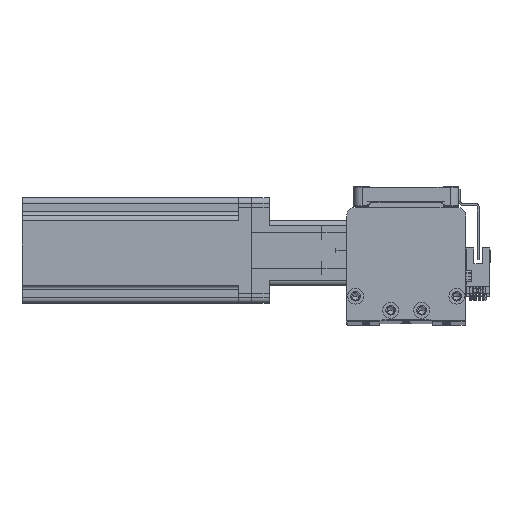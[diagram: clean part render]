
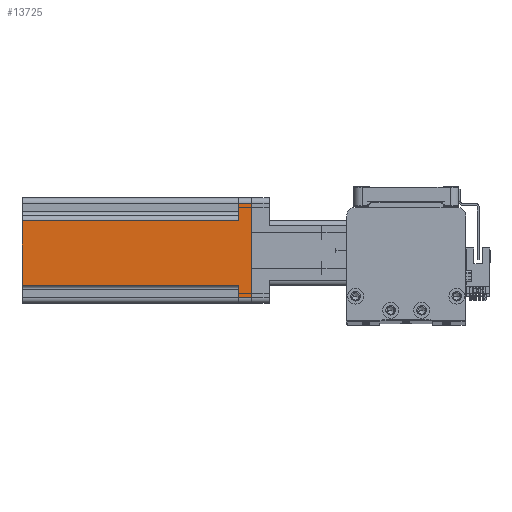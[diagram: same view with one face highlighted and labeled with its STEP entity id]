
A CAD part, top view. The second image highlights one B-rep face of the part: STEP entity #13725.
In plain terms, the highlighted planar face has unit normal (0, 0, 1) as drawn and (-1, 0, 0) by its records, which use the part's own axes.
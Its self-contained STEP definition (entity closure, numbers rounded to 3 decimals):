
#925 = LINE ( 'NONE', #33001, #17358 ) ;
#1280 = EDGE_CURVE ( 'NONE', #19563, #40643, #19574, .T. ) ;
#1428 = EDGE_CURVE ( 'NONE', #7830, #40643, #5397, .T. ) ;
#1460 = CARTESIAN_POINT ( 'NONE',  ( -30., -17., 7.5 ) ) ;
#2454 = CARTESIAN_POINT ( 'NONE',  ( -30., 20., 7.5 ) ) ;
#2562 = FACE_OUTER_BOUND ( 'NONE', #9778, .T. ) ;
#3394 = LINE ( 'NONE', #8610, #13320 ) ;
#3512 = ORIENTED_EDGE ( 'NONE', *, *, #42534, .T. ) ;
#4227 = VECTOR ( 'NONE', #40944, 1000. ) ;
#4643 = EDGE_CURVE ( 'NONE', #39130, #36479, #32904, .T. ) ;
#5397 = LINE ( 'NONE', #22093, #4227 ) ;
#5901 = AXIS2_PLACEMENT_3D ( 'NONE', #37994, #15363, #41752 ) ;
#7431 = CARTESIAN_POINT ( 'NONE',  ( -30., -30., 130.7 ) ) ;
#7509 = ORIENTED_EDGE ( 'NONE', *, *, #32579, .F. ) ;
#7830 = VERTEX_POINT ( 'NONE', #1460 ) ;
#7959 = EDGE_CURVE ( 'NONE', #35687, #39130, #17404, .T. ) ;
#8610 = CARTESIAN_POINT ( 'NONE',  ( -30., 20., 7.5 ) ) ;
#9467 = DIRECTION ( 'NONE',  ( 0., 1., 0. ) ) ;
#9778 = EDGE_LOOP ( 'NONE', ( #7509, #46017, #25430, #20614, #18077, #42961, #18757, #3512 ) ) ;
#9991 = DIRECTION ( 'NONE',  ( 0., -1., 0. ) ) ;
#10172 = CARTESIAN_POINT ( 'NONE',  ( -30., -17., 130.7 ) ) ;
#12737 = VECTOR ( 'NONE', #30719, 1000. ) ;
#13320 = VECTOR ( 'NONE', #16025, 1000. ) ;
#13668 = LINE ( 'NONE', #17574, #22622 ) ;
#13725 = ADVANCED_FACE ( 'NONE', ( #2562 ), #18863, .F. ) ;
#15363 = DIRECTION ( 'NONE',  ( 1., 0., 0. ) ) ;
#16025 = DIRECTION ( 'NONE',  ( 0., 0., 1. ) ) ;
#16042 = CARTESIAN_POINT ( 'NONE',  ( -30., 20., 130.7 ) ) ;
#17358 = VECTOR ( 'NONE', #36802, 1000. ) ;
#17404 = LINE ( 'NONE', #20888, #36383 ) ;
#17574 = CARTESIAN_POINT ( 'NONE',  ( -30., -30., 0. ) ) ;
#18077 = ORIENTED_EDGE ( 'NONE', *, *, #7959, .T. ) ;
#18359 = VECTOR ( 'NONE', #32744, 1000. ) ;
#18757 = ORIENTED_EDGE ( 'NONE', *, *, #19224, .T. ) ;
#18769 = CARTESIAN_POINT ( 'NONE',  ( -30., 27., 7.5 ) ) ;
#18863 = PLANE ( 'NONE',  #5901 ) ;
#18967 = VERTEX_POINT ( 'NONE', #27144 ) ;
#19224 = EDGE_CURVE ( 'NONE', #36479, #36365, #13668, .T. ) ;
#19563 = VERTEX_POINT ( 'NONE', #16042 ) ;
#19574 = LINE ( 'NONE', #7431, #18359 ) ;
#20614 = ORIENTED_EDGE ( 'NONE', *, *, #36882, .F. ) ;
#20888 = CARTESIAN_POINT ( 'NONE',  ( -30., 30., 7.5 ) ) ;
#21187 = LINE ( 'NONE', #41686, #40017 ) ;
#22093 = CARTESIAN_POINT ( 'NONE',  ( -30., -17., 130.7 ) ) ;
#22622 = VECTOR ( 'NONE', #9991, 1000. ) ;
#25430 = ORIENTED_EDGE ( 'NONE', *, *, #1280, .F. ) ;
#27144 = CARTESIAN_POINT ( 'NONE',  ( -30., -27., 7.5 ) ) ;
#27606 = CARTESIAN_POINT ( 'NONE',  ( -30., -27., 0. ) ) ;
#30719 = DIRECTION ( 'NONE',  ( 0., 0., -1. ) ) ;
#32579 = EDGE_CURVE ( 'NONE', #7830, #18967, #925, .T. ) ;
#32744 = DIRECTION ( 'NONE',  ( 0., -1., 0. ) ) ;
#32904 = LINE ( 'NONE', #41943, #12737 ) ;
#33001 = CARTESIAN_POINT ( 'NONE',  ( -30., -30., 7.5 ) ) ;
#35687 = VERTEX_POINT ( 'NONE', #2454 ) ;
#36365 = VERTEX_POINT ( 'NONE', #27606 ) ;
#36383 = VECTOR ( 'NONE', #9467, 1000. ) ;
#36479 = VERTEX_POINT ( 'NONE', #47028 ) ;
#36802 = DIRECTION ( 'NONE',  ( 0., -1., 0. ) ) ;
#36882 = EDGE_CURVE ( 'NONE', #35687, #19563, #3394, .T. ) ;
#37994 = CARTESIAN_POINT ( 'NONE',  ( -30., -30., 130.7 ) ) ;
#39130 = VERTEX_POINT ( 'NONE', #18769 ) ;
#40017 = VECTOR ( 'NONE', #45453, 1000. ) ;
#40643 = VERTEX_POINT ( 'NONE', #10172 ) ;
#40944 = DIRECTION ( 'NONE',  ( 0., 0., 1. ) ) ;
#41686 = CARTESIAN_POINT ( 'NONE',  ( -30., -27., 130.7 ) ) ;
#41752 = DIRECTION ( 'NONE',  ( 0., 0., -1. ) ) ;
#41943 = CARTESIAN_POINT ( 'NONE',  ( -30., 27., 130.7 ) ) ;
#42534 = EDGE_CURVE ( 'NONE', #36365, #18967, #21187, .T. ) ;
#42961 = ORIENTED_EDGE ( 'NONE', *, *, #4643, .T. ) ;
#45453 = DIRECTION ( 'NONE',  ( 0., 0., 1. ) ) ;
#46017 = ORIENTED_EDGE ( 'NONE', *, *, #1428, .T. ) ;
#47028 = CARTESIAN_POINT ( 'NONE',  ( -30., 27., 0. ) ) ;
